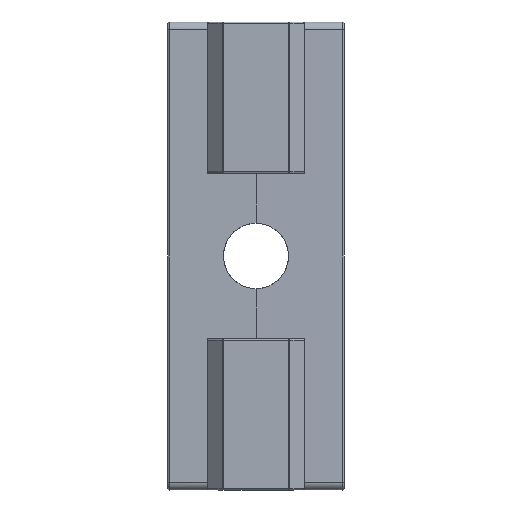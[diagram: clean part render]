
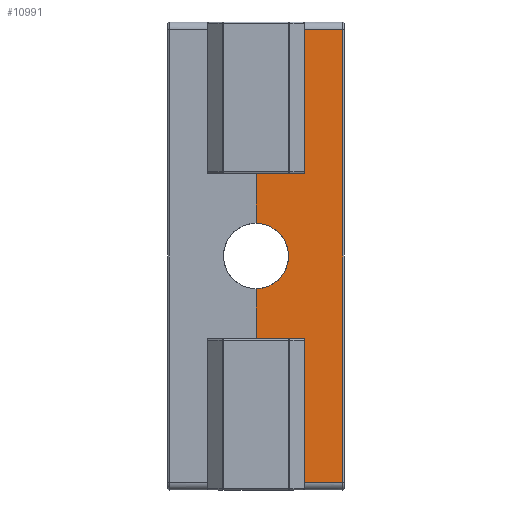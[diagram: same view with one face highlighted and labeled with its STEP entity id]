
A CAD part, front view. The second image highlights one B-rep face of the part: STEP entity #10991.
In plain terms, the highlighted planar face has unit normal (0.009, -1, 0).
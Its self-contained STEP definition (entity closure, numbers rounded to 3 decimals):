
#165 = ORIENTED_EDGE ( 'NONE', *, *, #16578, .T. ) ;
#177 = CARTESIAN_POINT ( 'NONE',  ( 4.123, -1.062, 10.627 ) ) ;
#306 = VECTOR ( 'NONE', #17209, 1000. ) ;
#320 = FACE_OUTER_BOUND ( 'NONE', #5048, .T. ) ;
#357 = CARTESIAN_POINT ( 'NONE',  ( 4.198, -1.061, -29.75 ) ) ;
#366 = VECTOR ( 'NONE', #9158, 1000. ) ;
#396 = CARTESIAN_POINT ( 'NONE',  ( 11.002, -1.002, -28.75 ) ) ;
#634 = DIRECTION ( 'NONE',  ( 0., 0., -1. ) ) ;
#655 = CARTESIAN_POINT ( 'NONE',  ( 8.3, -1.025, 4.15 ) ) ;
#788 = CARTESIAN_POINT ( 'NONE',  ( 0., -1.098, -4.15 ) ) ;
#833 = CARTESIAN_POINT ( 'NONE',  ( 4.198, -1.061, -29.75 ) ) ;
#1429 = EDGE_CURVE ( 'NONE', #7589, #10829, #3118, .T. ) ;
#1494 = CARTESIAN_POINT ( 'NONE',  ( 4.061, -1.062, 10.577 ) ) ;
#2012 = LINE ( 'NONE', #833, #5113 ) ;
#2211 = EDGE_CURVE ( 'NONE', #2895, #15924, #14386, .T. ) ;
#2329 = CARTESIAN_POINT ( 'NONE',  ( 3.988, -1.063, -10.532 ) ) ;
#2530 = CARTESIAN_POINT ( 'NONE',  ( 11.2, -1., 10.5 ) ) ;
#2552 = CARTESIAN_POINT ( 'NONE',  ( 11.2, -1., 28.75 ) ) ;
#2621 = CARTESIAN_POINT ( 'NONE',  ( 0., -1.098, -10.5 ) ) ;
#2819 = CARTESIAN_POINT ( 'NONE',  ( 4.049, -1.062, 10.568 ) ) ;
#2895 = VERTEX_POINT ( 'NONE', #788 ) ;
#2932 = VERTEX_POINT ( 'NONE', #10231 ) ;
#2998 = DIRECTION ( 'NONE',  ( 0., 0., -1. ) ) ;
#3118 = LINE ( 'NONE', #11533, #16446 ) ;
#3150 = ORIENTED_EDGE ( 'NONE', *, *, #4974, .T. ) ;
#3294 = VECTOR ( 'NONE', #634, 1000. ) ;
#3648 = CARTESIAN_POINT ( 'NONE',  ( 4.028, -1.063, -10.554 ) ) ;
#3715 = ORIENTED_EDGE ( 'NONE', *, *, #4292, .T. ) ;
#3869 = DIRECTION ( 'NONE',  ( 0., 0., 1. ) ) ;
#3885 = CARTESIAN_POINT ( 'NONE',  ( 4.198, -1.061, 28.75 ) ) ;
#3969 = EDGE_CURVE ( 'NONE', #10829, #2895, #5404, .T. ) ;
#4120 = CARTESIAN_POINT ( 'NONE',  ( 3.98, -1.063, 10.522 ) ) ;
#4258 = DIRECTION ( 'NONE',  ( 1., 0.009, 0. ) ) ;
#4292 = EDGE_CURVE ( 'NONE', #2932, #7589, #7404, .T. ) ;
#4744 = CARTESIAN_POINT ( 'NONE',  ( 8.3, -1.025, -4.15 ) ) ;
#4870 = VERTEX_POINT ( 'NONE', #3885 ) ;
#4890 = VECTOR ( 'NONE', #4258, 1000. ) ;
#4973 = CARTESIAN_POINT ( 'NONE',  ( 4.041, -1.062, -10.563 ) ) ;
#4974 = EDGE_CURVE ( 'NONE', #16548, #14195, #8859, .T. ) ;
#5001 = CARTESIAN_POINT ( 'NONE',  ( 11.2, -1., -29.75 ) ) ;
#5048 = EDGE_LOOP ( 'NONE', ( #13348, #16235, #16092, #13656, #12517, #13885, #3150, #15369, #165, #10750, #9834, #3715 ) ) ;
#5113 = VECTOR ( 'NONE', #11432, 1000. ) ;
#5281 = B_SPLINE_CURVE_WITH_KNOTS ( 'NONE', 3,
 ( #8946, #16937, #10288, #2329, #11626, #3648, #12985, #4973, #14343, #6317, #15666 ),
 .UNSPECIFIED., .F., .F.,
 ( 4, 1, 1, 1, 2, 2, 4 ),
 ( 0., 0.25, 0.375, 0.437, 0.469, 0.5, 1. ),
 .UNSPECIFIED. ) ;
#5404 =( BOUNDED_CURVE ( )  B_SPLINE_CURVE ( 3, ( #11378, #655, #4744, #14105 ),
 .UNSPECIFIED., .F., .F. ) 
 B_SPLINE_CURVE_WITH_KNOTS ( ( 4, 4 ),
 ( 4.712, 7.854 ),
 .UNSPECIFIED. ) 
 CURVE ( )  GEOMETRIC_REPRESENTATION_ITEM ( )  RATIONAL_B_SPLINE_CURVE ( ( 1., 0.333, 0.333, 1. ) ) 
 REPRESENTATION_ITEM ( '' )  );
#5466 = VECTOR ( 'NONE', #2998, 1000. ) ;
#5470 = CARTESIAN_POINT ( 'NONE',  ( 3.852, -1.064, 10.5 ) ) ;
#5766 = CARTESIAN_POINT ( 'NONE',  ( 11.002, -1.002, 28.75 ) ) ;
#5841 = EDGE_CURVE ( 'NONE', #4870, #9640, #12568, .T. ) ;
#5907 = VERTEX_POINT ( 'NONE', #5766 ) ;
#6317 = CARTESIAN_POINT ( 'NONE',  ( 4.133, -1.062, -10.635 ) ) ;
#6478 = CARTESIAN_POINT ( 'NONE',  ( 4.198, -1.061, -28.75 ) ) ;
#7344 = LINE ( 'NONE', #17154, #306 ) ;
#7404 = LINE ( 'NONE', #2530, #366 ) ;
#7589 = VERTEX_POINT ( 'NONE', #11496 ) ;
#7605 = LINE ( 'NONE', #2552, #14314 ) ;
#7693 = DIRECTION ( 'NONE',  ( 0.009, -1., 0. ) ) ;
#7928 = LINE ( 'NONE', #11847, #15049 ) ;
#8094 = CARTESIAN_POINT ( 'NONE',  ( 4.166, -1.061, 10.668 ) ) ;
#8859 = LINE ( 'NONE', #13556, #4890 ) ;
#8946 = CARTESIAN_POINT ( 'NONE',  ( 3.852, -1.064, -10.5 ) ) ;
#8975 = PLANE ( 'NONE',  #9479 ) ;
#9158 = DIRECTION ( 'NONE',  ( -1., -0.009, 0. ) ) ;
#9388 = VERTEX_POINT ( 'NONE', #11087 ) ;
#9450 = CARTESIAN_POINT ( 'NONE',  ( 4.08, -1.062, 10.591 ) ) ;
#9479 = AXIS2_PLACEMENT_3D ( 'NONE', #5001, #7693, #17018 ) ;
#9640 = VERTEX_POINT ( 'NONE', #17188 ) ;
#9781 = B_SPLINE_CURVE_WITH_KNOTS ( 'NONE', 3,
 ( #16089, #8094, #177, #9450, #1494, #10768, #2819, #12115, #4120, #13481, #5470 ),
 .UNSPECIFIED., .F., .F.,
 ( 4, 1, 1, 1, 2, 2, 4 ),
 ( 0., 0.25, 0.375, 0.438, 0.469, 0.5, 1. ),
 .UNSPECIFIED. ) ;
#9834 = ORIENTED_EDGE ( 'NONE', *, *, #16453, .T. ) ;
#10207 = EDGE_CURVE ( 'NONE', #14195, #5907, #7928, .T. ) ;
#10231 = CARTESIAN_POINT ( 'NONE',  ( 3.852, -1.064, 10.5 ) ) ;
#10288 = CARTESIAN_POINT ( 'NONE',  ( 3.932, -1.063, -10.509 ) ) ;
#10750 = ORIENTED_EDGE ( 'NONE', *, *, #5841, .T. ) ;
#10768 = CARTESIAN_POINT ( 'NONE',  ( 4.054, -1.062, 10.571 ) ) ;
#10829 = VERTEX_POINT ( 'NONE', #15119 ) ;
#10991 = ADVANCED_FACE ( 'NONE', ( #320 ), #8975, .T. ) ;
#11087 = CARTESIAN_POINT ( 'NONE',  ( 3.852, -1.064, -10.5 ) ) ;
#11378 = CARTESIAN_POINT ( 'NONE',  ( 0., -1.098, 4.15 ) ) ;
#11432 = DIRECTION ( 'NONE',  ( 0., 0., -1. ) ) ;
#11496 = CARTESIAN_POINT ( 'NONE',  ( 0., -1.098, 10.5 ) ) ;
#11533 = CARTESIAN_POINT ( 'NONE',  ( 0., -1.098, -29.75 ) ) ;
#11562 = EDGE_CURVE ( 'NONE', #15924, #9388, #7344, .T. ) ;
#11601 = DIRECTION ( 'NONE',  ( 0., 0., -1. ) ) ;
#11626 = CARTESIAN_POINT ( 'NONE',  ( 4.016, -1.063, -10.547 ) ) ;
#11847 = CARTESIAN_POINT ( 'NONE',  ( 11.002, -1.002, -29.75 ) ) ;
#12115 = CARTESIAN_POINT ( 'NONE',  ( 4.048, -1.062, 10.567 ) ) ;
#12497 = VERTEX_POINT ( 'NONE', #16709 ) ;
#12517 = ORIENTED_EDGE ( 'NONE', *, *, #15057, .T. ) ;
#12568 = LINE ( 'NONE', #357, #5466 ) ;
#12985 = CARTESIAN_POINT ( 'NONE',  ( 4.036, -1.063, -10.559 ) ) ;
#13348 = ORIENTED_EDGE ( 'NONE', *, *, #1429, .T. ) ;
#13481 = CARTESIAN_POINT ( 'NONE',  ( 3.916, -1.064, 10.501 ) ) ;
#13556 = CARTESIAN_POINT ( 'NONE',  ( 11.2, -1., -28.75 ) ) ;
#13656 = ORIENTED_EDGE ( 'NONE', *, *, #11562, .T. ) ;
#13885 = ORIENTED_EDGE ( 'NONE', *, *, #16233, .T. ) ;
#14105 = CARTESIAN_POINT ( 'NONE',  ( 0., -1.098, -4.15 ) ) ;
#14195 = VERTEX_POINT ( 'NONE', #396 ) ;
#14314 = VECTOR ( 'NONE', #17214, 1000. ) ;
#14343 = CARTESIAN_POINT ( 'NONE',  ( 4.082, -1.062, -10.59 ) ) ;
#14386 = LINE ( 'NONE', #16561, #3294 ) ;
#15049 = VECTOR ( 'NONE', #3869, 1000. ) ;
#15057 = EDGE_CURVE ( 'NONE', #9388, #12497, #5281, .T. ) ;
#15119 = CARTESIAN_POINT ( 'NONE',  ( 0., -1.098, 4.15 ) ) ;
#15369 = ORIENTED_EDGE ( 'NONE', *, *, #10207, .T. ) ;
#15666 = CARTESIAN_POINT ( 'NONE',  ( 4.198, -1.061, -10.7 ) ) ;
#15924 = VERTEX_POINT ( 'NONE', #2621 ) ;
#16089 = CARTESIAN_POINT ( 'NONE',  ( 4.198, -1.061, 10.7 ) ) ;
#16092 = ORIENTED_EDGE ( 'NONE', *, *, #2211, .T. ) ;
#16233 = EDGE_CURVE ( 'NONE', #12497, #16548, #2012, .T. ) ;
#16235 = ORIENTED_EDGE ( 'NONE', *, *, #3969, .T. ) ;
#16446 = VECTOR ( 'NONE', #11601, 1000. ) ;
#16453 = EDGE_CURVE ( 'NONE', #9640, #2932, #9781, .T. ) ;
#16548 = VERTEX_POINT ( 'NONE', #6478 ) ;
#16561 = CARTESIAN_POINT ( 'NONE',  ( 0., -1.098, -29.75 ) ) ;
#16578 = EDGE_CURVE ( 'NONE', #5907, #4870, #7605, .T. ) ;
#16709 = CARTESIAN_POINT ( 'NONE',  ( 4.198, -1.061, -10.7 ) ) ;
#16937 = CARTESIAN_POINT ( 'NONE',  ( 3.884, -1.064, -10.5 ) ) ;
#17018 = DIRECTION ( 'NONE',  ( 1., 0.009, 0. ) ) ;
#17154 = CARTESIAN_POINT ( 'NONE',  ( 11.2, -1., -10.5 ) ) ;
#17188 = CARTESIAN_POINT ( 'NONE',  ( 4.198, -1.061, 10.7 ) ) ;
#17209 = DIRECTION ( 'NONE',  ( 1., 0.009, 0. ) ) ;
#17214 = DIRECTION ( 'NONE',  ( -1., -0.009, 0. ) ) ;
